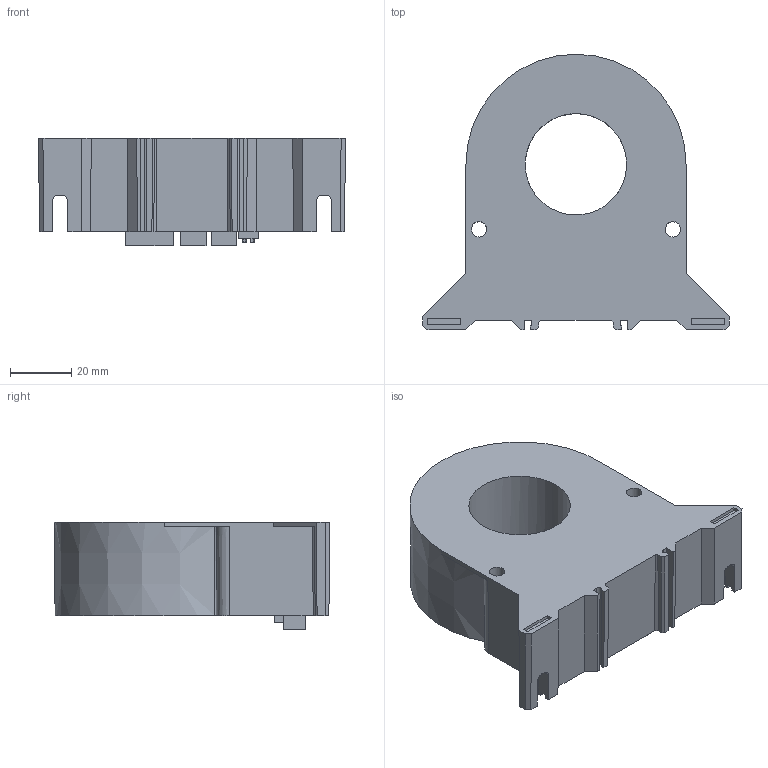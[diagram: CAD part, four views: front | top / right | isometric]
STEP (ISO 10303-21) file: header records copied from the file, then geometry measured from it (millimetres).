
FILE_DESCRIPTION(/* description */ ('Unknown'),/* implementation_level */ '2;1');
FILE_NAME(/* name */ '6MTF',/* time_stamp */ '2024-01-19T10:58:38+01:00',/* author */ ('Unknown'),/* organization */ ('Unknown'),/* preprocessor_version */ 'ST-DEVELOPER v18.102',/* originating_system */ 'Solid Edge',/* authorisation */ 'Unknown');
FILE_SCHEMA (('AUTOMOTIVE_DESIGN {1 0 10303 214 3 1 1}'));
Length unit declared in the file: millimetre
Products named in the file (1): 6MTF
Bounding box: 99.78 x 89.58 x 35.08 mm (x, y, z)
Surface area: 52033.9 mm2 (no closed solid volume)
Topology: 0 solids, 28 shells, 934 faces, 2644 edges, 1780 vertices
Faces by surface type: plane 720, cylinder 175, cone 30, bspline 5, torus 4
Full cylindrical faces by diameter (mm): 0.457 x1, 1.6 x12, 5 x2, 33 x1, 36.5 x1
Entity records: 34559 total; most frequent: CARTESIAN_POINT 6143, ORIENTED_EDGE 4830, DIRECTION 4702, EDGE_CURVE 2602, LINE 2074, VECTOR 2074, VERTEX_POINT 1767, AXIS2_PLACEMENT_3D 1314
